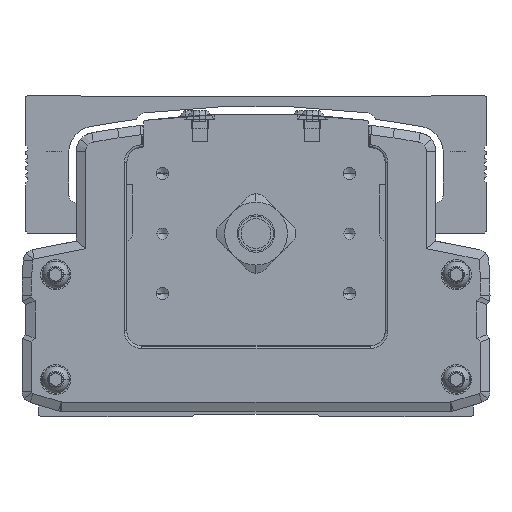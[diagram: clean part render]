
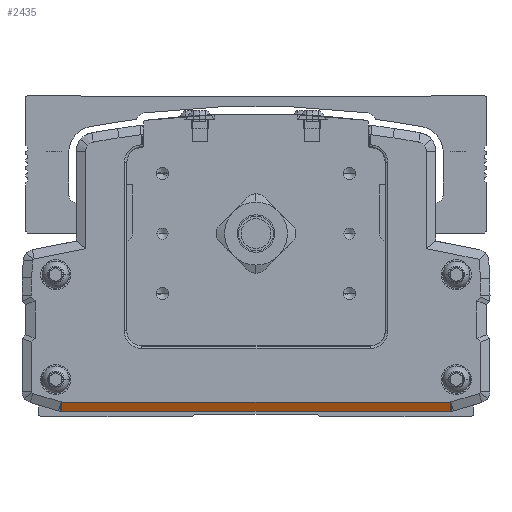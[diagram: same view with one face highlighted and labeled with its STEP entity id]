
A CAD part, front view. The second image highlights one B-rep face of the part: STEP entity #2435.
In plain terms, the highlighted planar face has unit normal (0, -0.894, -0.447).
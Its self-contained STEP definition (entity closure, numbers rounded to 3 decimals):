
#2435=ADVANCED_FACE('',(#6637),#6638,.T.);
#6637=FACE_OUTER_BOUND('',#13307,.T.);
#6638=PLANE('',#13308);
#13307=EDGE_LOOP('',(#21305,#21306,#21307,#21308));
#13308=AXIS2_PLACEMENT_3D('',#21309,#21310,#21311);
#21305=ORIENTED_EDGE('',*,*,#39229,.T.);
#21306=ORIENTED_EDGE('',*,*,#39230,.T.);
#21307=ORIENTED_EDGE('',*,*,#39231,.F.);
#21308=ORIENTED_EDGE('',*,*,#39232,.T.);
#21309=CARTESIAN_POINT('',(-300.01,-585.153,-46.25));
#21310=DIRECTION('',(0.,-0.894,-0.447));
#21311=DIRECTION('',(-1.0,0.,0.));
#39229=EDGE_CURVE('',#46953,#46954,#46955,.T.);
#39230=EDGE_CURVE('',#46954,#46956,#46957,.T.);
#39231=EDGE_CURVE('',#46958,#46956,#46959,.T.);
#39232=EDGE_CURVE('',#46958,#46953,#46960,.T.);
#46953=VERTEX_POINT('',#58135);
#46954=VERTEX_POINT('',#58136);
#46955=LINE('',#58137,#58138);
#46956=VERTEX_POINT('',#58139);
#46957=LINE('',#58140,#58141);
#46958=VERTEX_POINT('',#58142);
#46959=LINE('',#58143,#58144);
#46960=LINE('',#58145,#58146);
#58135=CARTESIAN_POINT('',(-351.868,-585.778,-45.));
#58136=CARTESIAN_POINT('',(-351.868,-584.528,-47.5));
#58137=CARTESIAN_POINT('',(-351.868,-585.778,-45.));
#58138=VECTOR('',#72884,10.0);
#58139=CARTESIAN_POINT('',(-248.132,-584.528,-47.5));
#58140=CARTESIAN_POINT('',(-300.01,-584.528,-47.5));
#58141=VECTOR('',#72885,10.0);
#58142=CARTESIAN_POINT('',(-248.132,-585.778,-45.));
#58143=CARTESIAN_POINT('',(-248.132,-585.778,-45.));
#58144=VECTOR('',#72886,10.);
#58145=CARTESIAN_POINT('',(-300.01,-585.778,-45.));
#58146=VECTOR('',#72887,10.0);
#72884=DIRECTION('',(0.,0.447,-0.894));
#72885=DIRECTION('',(1.0,0.,0.));
#72886=DIRECTION('',(0.,0.447,-0.894));
#72887=DIRECTION('',(-1.0,0.,0.));
